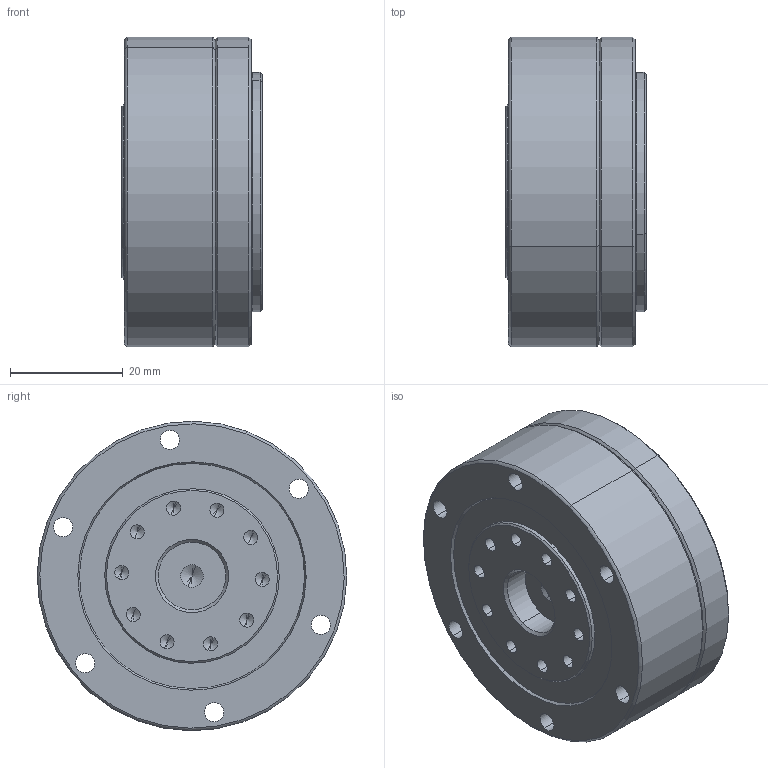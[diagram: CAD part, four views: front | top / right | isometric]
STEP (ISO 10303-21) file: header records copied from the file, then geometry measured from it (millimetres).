
FILE_DESCRIPTION (( 'STEP AP203' ), '1' );
FILE_NAME ('LCD-14-XXX-C-I-ST(C-0).STEP', '2017-09-28T08:43:02', ( 'Windows 蚚誧' ), ( 'Users' ), 'SwSTEP 2.0', 'SolidWorks 2013', '' );
FILE_SCHEMA (( 'CONFIG_CONTROL_DESIGN' ));
Length unit declared in the file: millimetre
Products named in the file (14): DB-14-I-ST; socket head cap screw_din_内六角圆柱头螺钉M2 x 8; RZC-14-ST内外圈+钢球; LCD-14-XXX-C-I-ST(C-0); socket head cap screw_din_内六角圆柱头螺钉M3 x 12; RZC-14-ST悵厥殤; 15Z-31405; RZC-14-ST; countersunk flat head cross recess screw_din_ISO 7046-1 - M2 x 3 - Z --- 3N; 疏楷汜ん14-I-ST; LCD-14-XXX-P02-I-ST; LCD-14-XXX-P01-I-ST; LCD-14-XXX-P03-I-ST; LCD-14-XXX-P04-I-ST
Assembly tree (27 placements, depth 4):
  LCD-14-XXX-C-I-ST(C-0)
    疏楷汜ん14-I-ST
      LCD-14-XXX-P03-I-ST
      DB-14-I-ST
      RZC-14-ST
        RZC-14-ST内外圈+钢球
        RZC-14-ST悵厥殤
      countersunk flat head cross recess screw_din_ISO 7046-1 - M2 x 3 - Z --- 3N  x4
    LCD-14-XXX-P02-I-ST
    LCD-14-XXX-P01-I-ST
    LCD-14-XXX-P04-I-ST
    socket head cap screw_din_内六角圆柱头螺钉M2 x 8  x3
    socket head cap screw_din_内六角圆柱头螺钉M3 x 12  x10
    15Z-31405
Bounding box: 25 x 54.99 x 54.99 mm (x, y, z)
Volume: 45749.9 mm3; surface area: 34935.6 mm2
Topology: 28 solids, 28 shells, 1127 faces, 2861 edges, 1732 vertices
Faces by surface type: plane 381, cylinder 353, cone 214, torus 133, sphere 46
Entity records: 23813 total; most frequent: CARTESIAN_POINT 4216, DIRECTION 4138, ORIENTED_EDGE 3500, AXIS2_PLACEMENT_3D 1794, EDGE_CURVE 1750, VERTEX_POINT 1116, CIRCLE 1055, EDGE_LOOP 852
